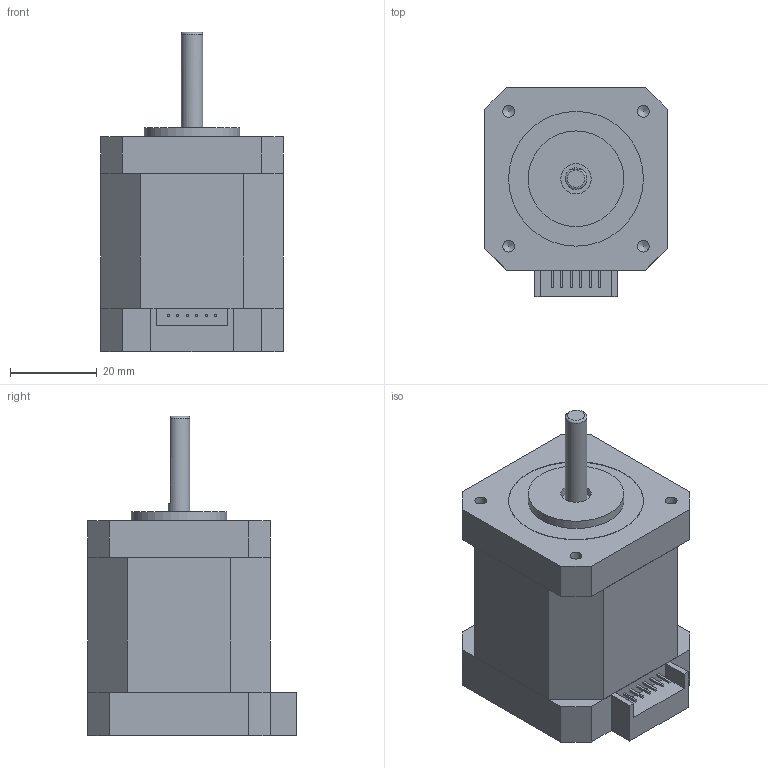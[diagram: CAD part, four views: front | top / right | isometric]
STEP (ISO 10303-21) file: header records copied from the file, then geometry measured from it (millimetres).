
FILE_DESCRIPTION(/* description */ (''),/* implementation_level */ '2;1');
FILE_NAME(/* name */ 'STP-42D4042.stp',/* time_stamp */ '2018-08-13T14:55:37+08:00',/* author */ (''),/* organization */ (''),/* preprocessor_version */ 'ST-DEVELOPER v11',/* originating_system */ 'SIEMENS UGS NX 6.0',/* authorisation */ '');
FILE_SCHEMA (('CONFIG_CONTROL_DESIGN'));
Length unit declared in the file: millimetre
Products named in the file (1): STP-43D3090
Bounding box: 42 x 48 x 73.5 mm (x, y, z)
Volume: 82762.6 mm3; surface area: 12411.1 mm2
Topology: 1 solids, 1 shells, 155 faces, 393 edges, 263 vertices
Faces by surface type: plane 131, cylinder 15, cone 8, torus 1
Full cylindrical faces by diameter (mm): 2.7 x4, 4.414 x4, 5 x2, 7 x2, 8.5 x1, 22 x1, 31 x1
Entity records: 4447 total; most frequent: CARTESIAN_POINT 769, ORIENTED_EDGE 706, DIRECTION 699, EDGE_CURVE 353, LINE 315, VECTOR 315, VERTEX_POINT 250, EDGE_LOOP 201
